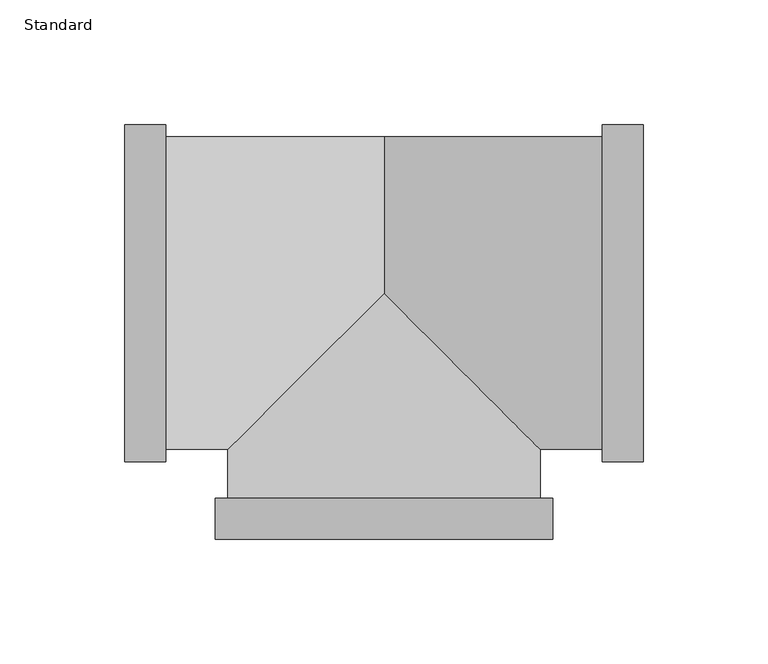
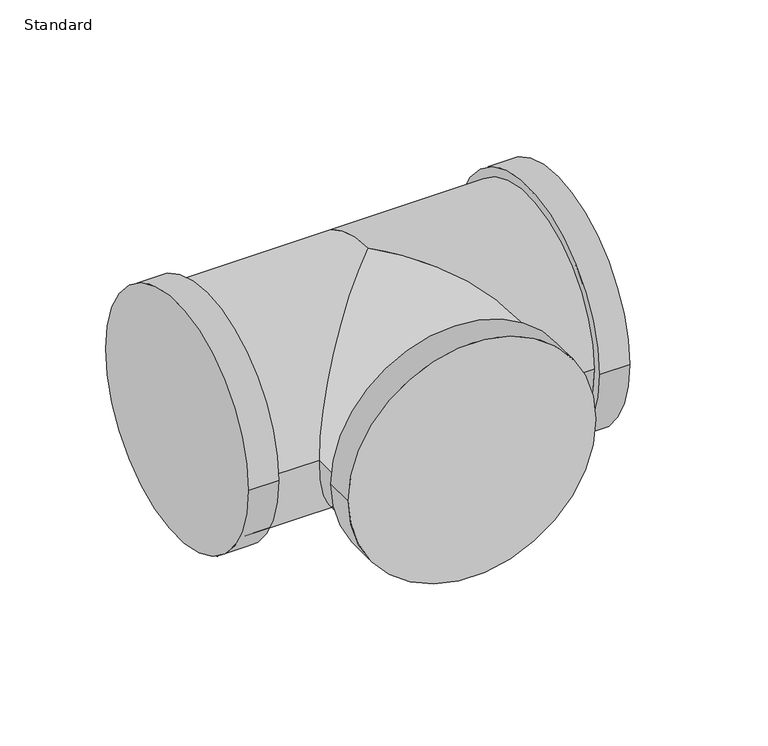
"""IFC4 building model written with IfcOpenShell, lengths in millimetres: pipe fitting geometry, Tee Branch Increased - Threaded - GMI : Standard."""

from ifc_helpers import new_model, si_unit, frame, origin, place, context, project, spatial, circle_curve, ellipse_curve, source, transform, mapped, element, save
from ifc_brep_helpers import plane_surface, cylinder_surface, advanced_brep


def standard_6012f66d(model_context):
    return source(origin(), model_context, "Body", "AdvancedBrep", [
        advanced_brep(
        [(-87.7351562, 62.7625, 0.0), (0.0, 62.7625, 0.0), (0.0, 0.0, -62.7625), (-62.7625, -62.7625, 0.0), (-87.7351562, -62.7625, 0.0), (0.0, 0.0, 62.7625), (87.7351563, 62.7625, 0.0), (62.7625, -62.7625, 0.0), (87.7351563, -62.7625, 0.0), (-104.2, -67.7011719, 0.0), (-104.2, 67.7011719, 0.0), (-87.7351562, -67.7011719, 0.0), (-87.7351562, 67.7011719, 0.0), (87.7351563, -67.7011719, 0.0), (87.7351563, 67.7011719, 0.0), (104.2, -67.7011719, 0.0), (104.2, 67.7011719, 0.0), (-62.7625, -82.4351563, 0.0), (62.7625, -82.4351563, 0.0), (-67.7011719, -82.4351563, 0.0), (67.7011719, -82.4351563, 0.0), (-67.7011719, -98.9, 0.0), (67.7011719, -98.9, 0.0)],
        [
            (0, 1),
            (1, 2, circle_curve(frame((0.0, 0.0, 0.0), z_axis=(-1.0, 0.0, 0.0), x_axis=(0.0, 0.0, -1.0)), 62.7625)),
            (2, 3, ellipse_curve(frame((0.0, 0.0, 0.0), z_axis=(-0.707106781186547, 0.707106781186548, 0.0), x_axis=(0.707106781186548, 0.707106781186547, 0.0)), 88.7595787, 62.7625)),
            (3, 4),
            (4, 0, circle_curve(frame((-87.7351562, 0.0, 0.0), z_axis=(1.0, 0.0, 0.0), x_axis=(0.0, 0.0, -1.0)), 62.7625)),
            (0, 4, circle_curve(frame((-87.7351562, 0.0, 0.0), z_axis=(1.0, 0.0, 0.0), x_axis=(0.0, 0.0, 1.0)), 62.7625)),
            (3, 5, ellipse_curve(frame((0.0, 0.0, 0.0), z_axis=(-0.707106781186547, 0.707106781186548, 0.0), x_axis=(0.707106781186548, 0.707106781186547, 0.0)), 88.7595787, 62.7625)),
            (5, 1, circle_curve(frame((0.0, 0.0, 0.0), z_axis=(-1.0, 0.0, 0.0), x_axis=(0.0, 0.0, 1.0)), 62.7625)),
            (6, 1),
            (5, 7, ellipse_curve(frame((0.0, 0.0, 0.0), z_axis=(0.707106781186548, 0.7071067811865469, 0.0), x_axis=(-0.707106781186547, 0.707106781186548, 0.0)), 88.7595787, 62.7625)),
            (7, 8),
            (8, 6, circle_curve(frame((87.7351563, 0.0, 0.0), z_axis=(-1.0, 0.0, 0.0), x_axis=(0.0, 1.0, 0.0)), 62.7625)),
            (6, 8, circle_curve(frame((87.7351563, 0.0, 0.0), z_axis=(-1.0, 0.0, 0.0), x_axis=(0.0, 1.0, 0.0)), 62.7625)),
            (7, 2, ellipse_curve(frame((0.0, 0.0, 0.0), z_axis=(0.707106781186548, 0.7071067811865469, 0.0), x_axis=(-0.707106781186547, 0.707106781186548, 0.0)), 88.7595787, 62.7625)),
            (9, 10, circle_curve(frame((-104.2, 0.0, 0.0), z_axis=(-1.0, 0.0, 0.0), x_axis=(0.0, 1.0, 0.0)), 67.7011719)),
            (10, 9, circle_curve(frame((-104.2, 0.0, 0.0), z_axis=(-1.0, 0.0, 0.0), x_axis=(0.0, 1.0, 0.0)), 67.7011719)),
            (11, 12, circle_curve(frame((-87.7351562, 0.0, 0.0), z_axis=(1.0, 0.0, 0.0), x_axis=(0.0, 1.0, 0.0)), 67.7011719)),
            (12, 11, circle_curve(frame((-87.7351562, 0.0, 0.0), z_axis=(1.0, 0.0, 0.0), x_axis=(0.0, 1.0, 0.0)), 67.7011719)),
            (9, 11),
            (12, 10),
            (13, 14, circle_curve(frame((87.7351563, 0.0, 0.0), z_axis=(-1.0, 0.0, 0.0), x_axis=(0.0, 1.0, 0.0)), 67.7011719)),
            (14, 13, circle_curve(frame((87.7351563, 0.0, 0.0), z_axis=(-1.0, 0.0, 0.0), x_axis=(0.0, 1.0, 0.0)), 67.7011719)),
            (15, 16, circle_curve(frame((104.2, 0.0, 0.0), z_axis=(1.0, 0.0, 0.0), x_axis=(0.0, 1.0, 0.0)), 67.7011719)),
            (16, 15, circle_curve(frame((104.2, 0.0, 0.0), z_axis=(1.0, 0.0, 0.0), x_axis=(0.0, 1.0, 0.0)), 67.7011719)),
            (13, 15),
            (16, 14),
            (17, 3),
            (7, 18),
            (18, 17, circle_curve(frame((0.0, -82.4351563, 0.0), z_axis=(0.0, 1.0, 0.0), x_axis=(0.0, 0.0, -1.0)), 62.7625)),
            (17, 18, circle_curve(frame((0.0, -82.4351563, 0.0), z_axis=(0.0, 1.0, 0.0), x_axis=(0.0, 0.0, 1.0)), 62.7625)),
            (19, 20, circle_curve(frame((0.0, -82.4351563, 0.0), z_axis=(0.0, 1.0, 0.0), x_axis=(1.0, 0.0, 0.0)), 67.7011719)),
            (20, 19, circle_curve(frame((0.0, -82.4351563, 0.0), z_axis=(0.0, 1.0, 0.0), x_axis=(1.0, 0.0, 0.0)), 67.7011719)),
            (21, 22, circle_curve(frame((0.0, -98.9, 0.0), z_axis=(0.0, -1.0, 0.0), x_axis=(1.0, 0.0, 0.0)), 67.7011719)),
            (22, 21, circle_curve(frame((0.0, -98.9, 0.0), z_axis=(0.0, -1.0, 0.0), x_axis=(1.0, 0.0, 0.0)), 67.7011719)),
            (19, 21),
            (22, 20),
        ],
        [
            cylinder_surface(frame((-87.7351562, 0.0, 0.0), z_axis=(1.0, 0.0, 0.0), x_axis=(0.0, 0.0, -1.0)), 62.7625),
            cylinder_surface(frame((-87.7351562, 0.0, 0.0), z_axis=(1.0, 0.0, 0.0), x_axis=(0.0, 0.0, 1.0)), 62.7625),
            cylinder_surface(frame((0.0, 0.0, 0.0), z_axis=(-1.0, 0.0, 0.0), x_axis=(0.0, 1.0, 0.0)), 62.7625),
            plane_surface(frame((-104.2, 0.0, 0.0), z_axis=(-1.0, 0.0, 0.0), x_axis=(0.0, 0.0, 1.0))),
            plane_surface(frame((-87.7351562, 0.0, 0.0), z_axis=(1.0, 0.0, 0.0), x_axis=(0.0, 0.0, 1.0))),
            cylinder_surface(frame((-104.2, 0.0, 0.0), z_axis=(-1.0, 0.0, 0.0), x_axis=(0.0, 1.0, 0.0)), 67.7011719),
            plane_surface(frame((87.7351563, 0.0, 0.0), z_axis=(-1.0, 0.0, 0.0), x_axis=(0.0, 0.0, 1.0))),
            plane_surface(frame((104.2, 0.0, 0.0), z_axis=(1.0, 0.0, 0.0), x_axis=(0.0, 0.0, 1.0))),
            cylinder_surface(frame((87.7351563, 0.0, 0.0), z_axis=(-1.0, 0.0, 0.0), x_axis=(0.0, 1.0, 0.0)), 67.7011719),
            cylinder_surface(frame((0.0, 0.0, 0.0), z_axis=(0.0, -1.0, 0.0), x_axis=(0.0, 0.0, -1.0)), 62.7625),
            cylinder_surface(frame((0.0, 0.0, 0.0), z_axis=(0.0, -1.0, 0.0), x_axis=(0.0, 0.0, 1.0)), 62.7625),
            plane_surface(frame((0.0, -82.4351563, 0.0), z_axis=(0.0, 1.0, 0.0), x_axis=(0.0, 0.0, 1.0))),
            plane_surface(frame((0.0, -98.9, 0.0), z_axis=(0.0, -1.0, 0.0), x_axis=(0.0, 0.0, 1.0))),
            cylinder_surface(frame((0.0, -82.4351563, 0.0), z_axis=(0.0, 1.0, 0.0), x_axis=(1.0, 0.0, 0.0)), 67.7011719),
        ],
        [
            (0, [[1, 2, 3, 4, 5]]),
            (1, [[-1, 6, -4, 7, 8]]),
            (2, [[9, -8, 10, 11, 12]]),
            (2, [[-9, 13, -11, 14, -2]]),
            (3, [[15, 16]]),
            (4, [[17, 18], [-5, -6]]),
            (5, [[-15, 19, -18, 20]]),
            (5, [[-16, -20, -17, -19]]),
            (6, [[21, 22], [-12, -13]]),
            (7, [[23, 24]]),
            (8, [[-21, 25, -24, 26]]),
            (8, [[-22, -26, -23, -25]]),
            (9, [[27, -3, -14, 28, 29]]),
            (10, [[-27, 30, -28, -10, -7]]),
            (11, [[31, 32], [-29, -30]]),
            (12, [[33, 34]]),
            (13, [[-31, 35, -34, 36]]),
            (13, [[-32, -36, -33, -35]]),
        ],
    ),
    ])


if __name__ == "__main__":
    model = new_model("IFC4")
    model_context = context("Model", 3, world=origin())
    ifc_project = project(units=[si_unit("LENGTHUNIT", "METRE", prefix="MILLI")], contexts=[model_context])
    site = spatial("IfcSite", under=ifc_project)
    building = spatial("IfcBuilding", under=site)
    placement = place(None, origin())
    standard_shape = standard_6012f66d(model_context)
    element("IfcPipeFitting", 1, ObjectType="Tee Branch Increased - Threaded - GMI : Standard", at=placement, inside=building, context=model_context, shape_type="MappedRepresentation", body=[
        mapped(standard_shape, transform((0.0, 0.0, 0.0), x_axis=(1.0, 0.0, 0.0), y_axis=(0.0, 1.0, 0.0), z_axis=(0.0, 0.0, 1.0))),
    ])
    save(model, "model.ifc")
